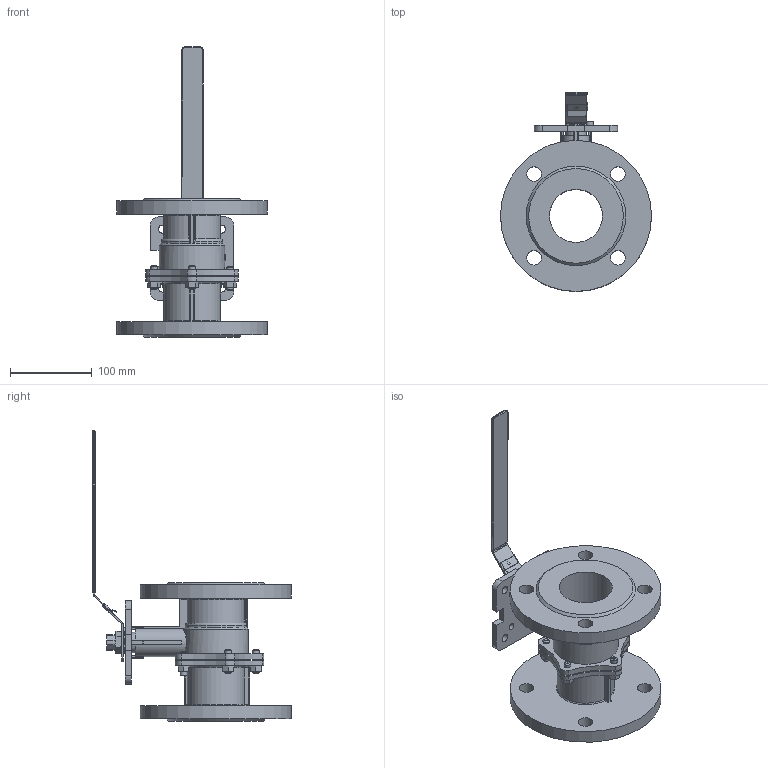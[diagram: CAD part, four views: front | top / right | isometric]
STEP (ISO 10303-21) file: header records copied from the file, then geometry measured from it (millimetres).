
FILE_DESCRIPTION(('STEP AP242'), '1');
FILE_NAME('BV3232P(2pc)-FP-F-ISO-H Êðàí øàðîâîé DN.ru Äó65 Ðó16', '', ('UNSPECIFIED'), ('UNSPECIFIED'), 'C3D Converter', 'C3D Toolkit', '');
FILE_SCHEMA(('AP242_MANAGED_MODEL_BASED_3D_ENGINEERING_MIM_LF { 1 0 10303 442 1 1 4 }'));
Length unit declared in the file: millimetre
Products named in the file (1): BV3232P(2pc)-FP-F-ISO-H
Bounding box: 185 x 243.5 x 355.94 mm (x, y, z)
Volume: 1088788.8 mm3; surface area: 257352.1 mm2
Topology: 2 solids, 6 shells, 691 faces, 1707 edges, 1062 vertices
Faces by surface type: plane 347, cylinder 161, cone 104, bspline 52, torus 26, sphere 1
Full cylindrical faces by diameter (mm): 1 x1, 5 x1, 8 x20, 8.307 x1, 10 x4, 16 x1, 18 x8, 25 x2, 30 x2, 65 x1, 75 x1, 80 x1, 185 x2
Entity records: 33963 total; most frequent: CARTESIAN_POINT 15370, ORIENTED_EDGE 3252, DIRECTION 3080, EDGE_CURVE 1626, AXIS2_PLACEMENT_3D 1141, VERTEX_POINT 1052, EDGE_LOOP 858, LINE 798
